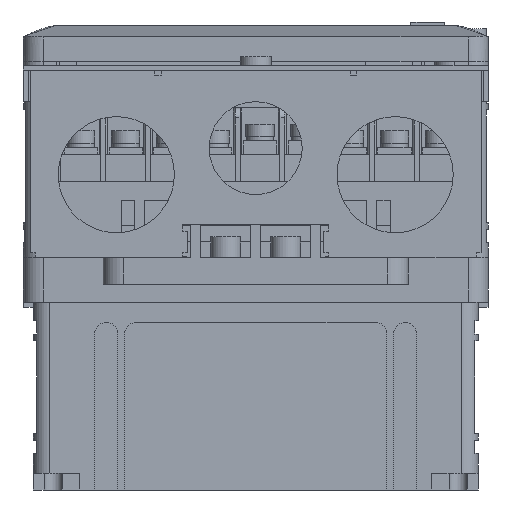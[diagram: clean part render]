
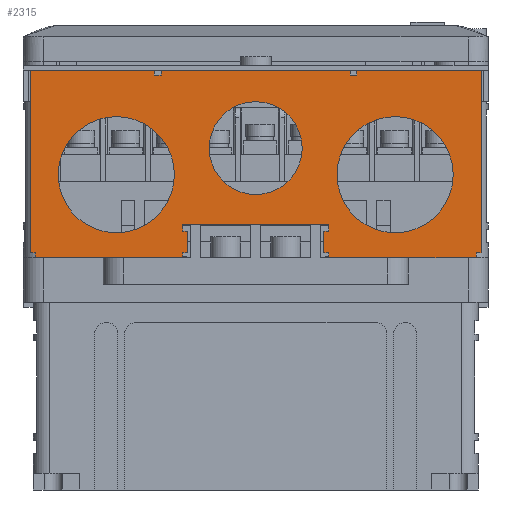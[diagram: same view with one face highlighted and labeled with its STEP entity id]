
A CAD part, front view. The second image highlights one B-rep face of the part: STEP entity #2315.
In plain terms, the highlighted planar face has unit normal (0, 0, 1) by its records, which use the part's own axes.
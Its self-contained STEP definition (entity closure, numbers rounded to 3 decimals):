
#1262=DIRECTION('',(0.,1.,0.));
#1263=VECTOR('',#1262,1.5);
#1264=CARTESIAN_POINT('',(45.9,-56.5,0.));
#1265=LINE('',#1264,#1263);
#1266=DIRECTION('',(0.,-1.,0.));
#1267=VECTOR('',#1266,1.5);
#1268=CARTESIAN_POINT('',(1.5,-55.,0.));
#1269=LINE('',#1268,#1267);
#1270=DIRECTION('',(0.,-1.,0.));
#1271=VECTOR('',#1270,1.5);
#1272=CARTESIAN_POINT('',(39.4,0.,0.));
#1273=LINE('',#1272,#1271);
#1274=DIRECTION('',(0.,1.,0.));
#1275=VECTOR('',#1274,1.5);
#1276=CARTESIAN_POINT('',(96.4,-1.5,0.));
#1277=LINE('',#1276,#1275);
#1278=DIRECTION('',(0.,1.,0.));
#1279=VECTOR('',#1278,1.5);
#1280=CARTESIAN_POINT('',(134.3,-56.5,0.));
#1281=LINE('',#1280,#1279);
#1282=DIRECTION('',(0.,-1.,0.));
#1283=VECTOR('',#1282,1.5);
#1284=CARTESIAN_POINT('',(89.9,-55.,0.));
#1285=LINE('',#1284,#1283);
#1286=CARTESIAN_POINT('',(25.9,-31.5,0.));
#1287=DIRECTION('',(0.,0.,-1.));
#1288=DIRECTION('',(1.,0.,0.));
#1289=AXIS2_PLACEMENT_3D('',#1286,#1287,#1288);
#1291=CARTESIAN_POINT('',(25.9,-31.5,0.));
#1292=DIRECTION('',(0.,0.,-1.));
#1293=DIRECTION('',(-1.,0.,0.));
#1294=AXIS2_PLACEMENT_3D('',#1291,#1292,#1293);
#1296=CARTESIAN_POINT('',(109.9,-31.5,0.));
#1297=DIRECTION('',(0.,0.,-1.));
#1298=DIRECTION('',(1.,0.,0.));
#1299=AXIS2_PLACEMENT_3D('',#1296,#1297,#1298);
#1301=CARTESIAN_POINT('',(109.9,-31.5,0.));
#1302=DIRECTION('',(0.,0.,-1.));
#1303=DIRECTION('',(-1.,0.,0.));
#1304=AXIS2_PLACEMENT_3D('',#1301,#1302,#1303);
#1306=CARTESIAN_POINT('',(67.9,-23.5,0.));
#1307=DIRECTION('',(0.,0.,-1.));
#1308=DIRECTION('',(1.,0.,0.));
#1309=AXIS2_PLACEMENT_3D('',#1306,#1307,#1308);
#1311=CARTESIAN_POINT('',(67.9,-23.5,0.));
#1312=DIRECTION('',(0.,0.,-1.));
#1313=DIRECTION('',(-1.,0.,0.));
#1314=AXIS2_PLACEMENT_3D('',#1311,#1312,#1313);
#1328=DIRECTION('',(1.,0.,0.));
#1329=VECTOR('',#1328,1.5);
#1330=CARTESIAN_POINT('',(45.9,-48.5,0.));
#1331=LINE('',#1330,#1329);
#1332=DIRECTION('',(0.,-1.,0.));
#1333=VECTOR('',#1332,2.);
#1334=CARTESIAN_POINT('',(45.9,-46.5,0.));
#1335=LINE('',#1334,#1333);
#1344=DIRECTION('',(-1.,0.,0.));
#1345=VECTOR('',#1344,44.);
#1346=CARTESIAN_POINT('',(89.9,-46.5,0.));
#1347=LINE('',#1346,#1345);
#1348=DIRECTION('',(0.,1.,0.));
#1349=VECTOR('',#1348,2.);
#1350=CARTESIAN_POINT('',(89.9,-48.5,0.));
#1351=LINE('',#1350,#1349);
#1446=DIRECTION('',(1.,0.,0.));
#1447=VECTOR('',#1446,37.4);
#1448=CARTESIAN_POINT('',(0.,0.,0.));
#1449=LINE('',#1448,#1447);
#1486=DIRECTION('',(0.,1.,0.));
#1487=VECTOR('',#1486,55.);
#1488=CARTESIAN_POINT('',(0.,-55.,0.));
#1489=LINE('',#1488,#1487);
#1502=DIRECTION('',(-1.,0.,0.));
#1503=VECTOR('',#1502,1.5);
#1504=CARTESIAN_POINT('',(1.5,-55.,0.));
#1505=LINE('',#1504,#1503);
#1514=DIRECTION('',(-1.,0.,0.));
#1515=VECTOR('',#1514,44.4);
#1516=CARTESIAN_POINT('',(45.9,-56.5,0.));
#1517=LINE('',#1516,#1515);
#1598=DIRECTION('',(-1.,0.,0.));
#1599=VECTOR('',#1598,1.5);
#1600=CARTESIAN_POINT('',(47.4,-55.,0.));
#1601=LINE('',#1600,#1599);
#1614=DIRECTION('',(0.,-1.,0.));
#1615=VECTOR('',#1614,6.5);
#1616=CARTESIAN_POINT('',(47.4,-48.5,0.));
#1617=LINE('',#1616,#1615);
#1650=DIRECTION('',(0.,-1.,0.));
#1651=VECTOR('',#1650,1.5);
#1652=CARTESIAN_POINT('',(37.4,0.,0.));
#1653=LINE('',#1652,#1651);
#1654=DIRECTION('',(1.,0.,0.));
#1655=VECTOR('',#1654,2.);
#1656=CARTESIAN_POINT('',(37.4,-1.5,0.));
#1657=LINE('',#1656,#1655);
#1690=DIRECTION('',(1.,0.,0.));
#1691=VECTOR('',#1690,2.);
#1692=CARTESIAN_POINT('',(96.4,-1.5,0.));
#1693=LINE('',#1692,#1691);
#1706=DIRECTION('',(0.,1.,0.));
#1707=VECTOR('',#1706,1.5);
#1708=CARTESIAN_POINT('',(98.4,-1.5,0.));
#1709=LINE('',#1708,#1707);
#1726=DIRECTION('',(1.,0.,0.));
#1727=VECTOR('',#1726,37.4);
#1728=CARTESIAN_POINT('',(98.4,0.,0.));
#1729=LINE('',#1728,#1727);
#1774=DIRECTION('',(-1.,0.,0.));
#1775=VECTOR('',#1774,1.5);
#1776=CARTESIAN_POINT('',(135.8,-55.,0.));
#1777=LINE('',#1776,#1775);
#1778=DIRECTION('',(0.,-1.,0.));
#1779=VECTOR('',#1778,55.);
#1780=CARTESIAN_POINT('',(135.8,0.,0.));
#1781=LINE('',#1780,#1779);
#1866=DIRECTION('',(-1.,0.,0.));
#1867=VECTOR('',#1866,44.4);
#1868=CARTESIAN_POINT('',(134.3,-56.5,0.));
#1869=LINE('',#1868,#1867);
#1902=DIRECTION('',(-1.,0.,0.));
#1903=VECTOR('',#1902,1.5);
#1904=CARTESIAN_POINT('',(89.9,-55.,0.));
#1905=LINE('',#1904,#1903);
#1906=DIRECTION('',(0.,1.,0.));
#1907=VECTOR('',#1906,6.5);
#1908=CARTESIAN_POINT('',(88.4,-55.,0.));
#1909=LINE('',#1908,#1907);
#1922=DIRECTION('',(1.,0.,0.));
#1923=VECTOR('',#1922,1.5);
#1924=CARTESIAN_POINT('',(88.4,-48.5,0.));
#1925=LINE('',#1924,#1923);
#1958=DIRECTION('',(1.,0.,0.));
#1959=VECTOR('',#1958,57.);
#1960=CARTESIAN_POINT('',(39.4,0.,0.));
#1961=LINE('',#1960,#1959);
#2010=CARTESIAN_POINT('',(39.4,0.,0.));
#2011=CARTESIAN_POINT('',(39.4,-1.5,0.));
#2012=VERTEX_POINT('',#2010);
#2013=VERTEX_POINT('',#2011);
#2014=CARTESIAN_POINT('',(0.,0.,0.));
#2015=CARTESIAN_POINT('',(37.4,0.,0.));
#2016=VERTEX_POINT('',#2014);
#2017=VERTEX_POINT('',#2015);
#2018=CARTESIAN_POINT('',(37.4,-1.5,0.));
#2019=VERTEX_POINT('',#2018);
#2020=CARTESIAN_POINT('',(1.5,-55.,0.));
#2021=CARTESIAN_POINT('',(0.,-55.,0.));
#2022=VERTEX_POINT('',#2020);
#2023=VERTEX_POINT('',#2021);
#2024=CARTESIAN_POINT('',(45.9,-56.5,0.));
#2025=CARTESIAN_POINT('',(45.9,-55.,0.));
#2026=VERTEX_POINT('',#2024);
#2027=VERTEX_POINT('',#2025);
#2028=CARTESIAN_POINT('',(47.4,-48.5,0.));
#2029=CARTESIAN_POINT('',(47.4,-55.,0.));
#2030=VERTEX_POINT('',#2028);
#2031=VERTEX_POINT('',#2029);
#2032=CARTESIAN_POINT('',(1.5,-56.5,0.));
#2033=VERTEX_POINT('',#2032);
#2061=CARTESIAN_POINT('',(45.9,-48.5,0.));
#2063=VERTEX_POINT('',#2061);
#2084=CARTESIAN_POINT('',(96.4,0.,0.));
#2086=VERTEX_POINT('',#2084);
#2088=CARTESIAN_POINT('',(45.9,-46.5,0.));
#2089=VERTEX_POINT('',#2088);
#2091=CARTESIAN_POINT('',(96.4,-1.5,0.));
#2093=VERTEX_POINT('',#2091);
#2104=CARTESIAN_POINT('',(134.3,-56.5,0.));
#2105=VERTEX_POINT('',#2104);
#2106=CARTESIAN_POINT('',(89.9,-56.5,0.));
#2108=VERTEX_POINT('',#2106);
#2116=CARTESIAN_POINT('',(88.4,-48.5,0.));
#2118=VERTEX_POINT('',#2116);
#2124=CARTESIAN_POINT('',(98.4,-1.5,0.));
#2125=VERTEX_POINT('',#2124);
#2126=CARTESIAN_POINT('',(89.9,-48.5,0.));
#2128=VERTEX_POINT('',#2126);
#2130=CARTESIAN_POINT('',(89.9,-46.5,0.));
#2131=VERTEX_POINT('',#2130);
#2132=CARTESIAN_POINT('',(135.8,0.,0.));
#2134=VERTEX_POINT('',#2132);
#2142=CARTESIAN_POINT('',(88.4,-55.,0.));
#2143=VERTEX_POINT('',#2142);
#2148=CARTESIAN_POINT('',(135.8,-55.,0.));
#2150=VERTEX_POINT('',#2148);
#2152=CARTESIAN_POINT('',(98.4,0.,0.));
#2153=VERTEX_POINT('',#2152);
#2164=CARTESIAN_POINT('',(89.9,-55.,0.));
#2165=VERTEX_POINT('',#2164);
#2166=CARTESIAN_POINT('',(92.4,-31.5,0.));
#2167=CARTESIAN_POINT('',(127.4,-31.5,0.));
#2168=VERTEX_POINT('',#2166);
#2169=VERTEX_POINT('',#2167);
#2170=CARTESIAN_POINT('',(134.3,-55.,0.));
#2171=VERTEX_POINT('',#2170);
#2172=CARTESIAN_POINT('',(8.4,-31.5,0.));
#2173=CARTESIAN_POINT('',(43.4,-31.5,0.));
#2174=VERTEX_POINT('',#2172);
#2175=VERTEX_POINT('',#2173);
#2176=CARTESIAN_POINT('',(81.9,-23.5,0.));
#2177=VERTEX_POINT('',#2176);
#2178=CARTESIAN_POINT('',(53.9,-23.5,0.));
#2179=VERTEX_POINT('',#2178);
#2236=CARTESIAN_POINT('',(67.9,-28.25,0.));
#2237=DIRECTION('',(0.,0.,1.));
#2238=DIRECTION('',(1.,0.,0.));
#2239=AXIS2_PLACEMENT_3D('',#2236,#2237,#2238);
#2240=PLANE('',#2239);
#2242=ORIENTED_EDGE('',*,*,#2241,.T.);
#2244=ORIENTED_EDGE('',*,*,#2243,.T.);
#2246=ORIENTED_EDGE('',*,*,#2245,.T.);
#2248=ORIENTED_EDGE('',*,*,#2247,.F.);
#2250=ORIENTED_EDGE('',*,*,#2249,.T.);
#2252=ORIENTED_EDGE('',*,*,#2251,.F.);
#2254=ORIENTED_EDGE('',*,*,#2253,.T.);
#2256=ORIENTED_EDGE('',*,*,#2255,.T.);
#2258=ORIENTED_EDGE('',*,*,#2257,.T.);
#2260=ORIENTED_EDGE('',*,*,#2259,.T.);
#2262=ORIENTED_EDGE('',*,*,#2261,.T.);
#2264=ORIENTED_EDGE('',*,*,#2263,.F.);
#2266=ORIENTED_EDGE('',*,*,#2265,.T.);
#2268=ORIENTED_EDGE('',*,*,#2267,.F.);
#2270=ORIENTED_EDGE('',*,*,#2269,.T.);
#2272=ORIENTED_EDGE('',*,*,#2271,.T.);
#2274=ORIENTED_EDGE('',*,*,#2273,.T.);
#2276=ORIENTED_EDGE('',*,*,#2275,.T.);
#2278=ORIENTED_EDGE('',*,*,#2277,.T.);
#2280=ORIENTED_EDGE('',*,*,#2279,.F.);
#2282=ORIENTED_EDGE('',*,*,#2281,.T.);
#2284=ORIENTED_EDGE('',*,*,#2283,.F.);
#2286=ORIENTED_EDGE('',*,*,#2285,.T.);
#2288=ORIENTED_EDGE('',*,*,#2287,.T.);
#2290=ORIENTED_EDGE('',*,*,#2289,.T.);
#2292=ORIENTED_EDGE('',*,*,#2291,.T.);
#2294=ORIENTED_EDGE('',*,*,#2293,.T.);
#2296=ORIENTED_EDGE('',*,*,#2295,.T.);
#2297=EDGE_LOOP('',(#2242,#2244,#2246,#2248,#2250,#2252,#2254,#2256,#2258,#2260,
#2262,#2264,#2266,#2268,#2270,#2272,#2274,#2276,#2278,#2280,#2282,#2284,#2286,
#2288,#2290,#2292,#2294,#2296));
#2298=FACE_OUTER_BOUND('',#2297,.F.);
#2299=ORIENTED_EDGE('',*,*,#2217,.F.);
#2300=ORIENTED_EDGE('',*,*,#2227,.F.);
#2301=EDGE_LOOP('',(#2299,#2300));
#2302=FACE_BOUND('',#2301,.F.);
#2304=ORIENTED_EDGE('',*,*,#2303,.F.);
#2306=ORIENTED_EDGE('',*,*,#2305,.F.);
#2307=EDGE_LOOP('',(#2304,#2306));
#2308=FACE_BOUND('',#2307,.F.);
#2310=ORIENTED_EDGE('',*,*,#2309,.F.);
#2312=ORIENTED_EDGE('',*,*,#2311,.F.);
#2313=EDGE_LOOP('',(#2310,#2312));
#2314=FACE_BOUND('',#2313,.F.);
#2315=ADVANCED_FACE('',(#2298,#2302,#2308,#2314),#2240,.T.);
#1290=CIRCLE('',#1289,17.5);
#1295=CIRCLE('',#1294,17.5);
#1300=CIRCLE('',#1299,17.5);
#1305=CIRCLE('',#1304,17.5);
#1310=CIRCLE('',#1309,14.);
#1315=CIRCLE('',#1314,14.);
#2217=EDGE_CURVE('',#2175,#2174,#1290,.T.);
#2227=EDGE_CURVE('',#2174,#2175,#1295,.T.);
#2241=EDGE_CURVE('',#2063,#2030,#1331,.T.);
#2243=EDGE_CURVE('',#2030,#2031,#1617,.T.);
#2245=EDGE_CURVE('',#2031,#2027,#1601,.T.);
#2247=EDGE_CURVE('',#2026,#2027,#1265,.T.);
#2249=EDGE_CURVE('',#2026,#2033,#1517,.T.);
#2251=EDGE_CURVE('',#2022,#2033,#1269,.T.);
#2253=EDGE_CURVE('',#2022,#2023,#1505,.T.);
#2255=EDGE_CURVE('',#2023,#2016,#1489,.T.);
#2257=EDGE_CURVE('',#2016,#2017,#1449,.T.);
#2259=EDGE_CURVE('',#2017,#2019,#1653,.T.);
#2261=EDGE_CURVE('',#2019,#2013,#1657,.T.);
#2263=EDGE_CURVE('',#2012,#2013,#1273,.T.);
#2265=EDGE_CURVE('',#2012,#2086,#1961,.T.);
#2267=EDGE_CURVE('',#2093,#2086,#1277,.T.);
#2269=EDGE_CURVE('',#2093,#2125,#1693,.T.);
#2271=EDGE_CURVE('',#2125,#2153,#1709,.T.);
#2273=EDGE_CURVE('',#2153,#2134,#1729,.T.);
#2275=EDGE_CURVE('',#2134,#2150,#1781,.T.);
#2277=EDGE_CURVE('',#2150,#2171,#1777,.T.);
#2279=EDGE_CURVE('',#2105,#2171,#1281,.T.);
#2281=EDGE_CURVE('',#2105,#2108,#1869,.T.);
#2283=EDGE_CURVE('',#2165,#2108,#1285,.T.);
#2285=EDGE_CURVE('',#2165,#2143,#1905,.T.);
#2287=EDGE_CURVE('',#2143,#2118,#1909,.T.);
#2289=EDGE_CURVE('',#2118,#2128,#1925,.T.);
#2291=EDGE_CURVE('',#2128,#2131,#1351,.T.);
#2293=EDGE_CURVE('',#2131,#2089,#1347,.T.);
#2295=EDGE_CURVE('',#2089,#2063,#1335,.T.);
#2303=EDGE_CURVE('',#2169,#2168,#1300,.T.);
#2305=EDGE_CURVE('',#2168,#2169,#1305,.T.);
#2309=EDGE_CURVE('',#2177,#2179,#1310,.T.);
#2311=EDGE_CURVE('',#2179,#2177,#1315,.T.);
